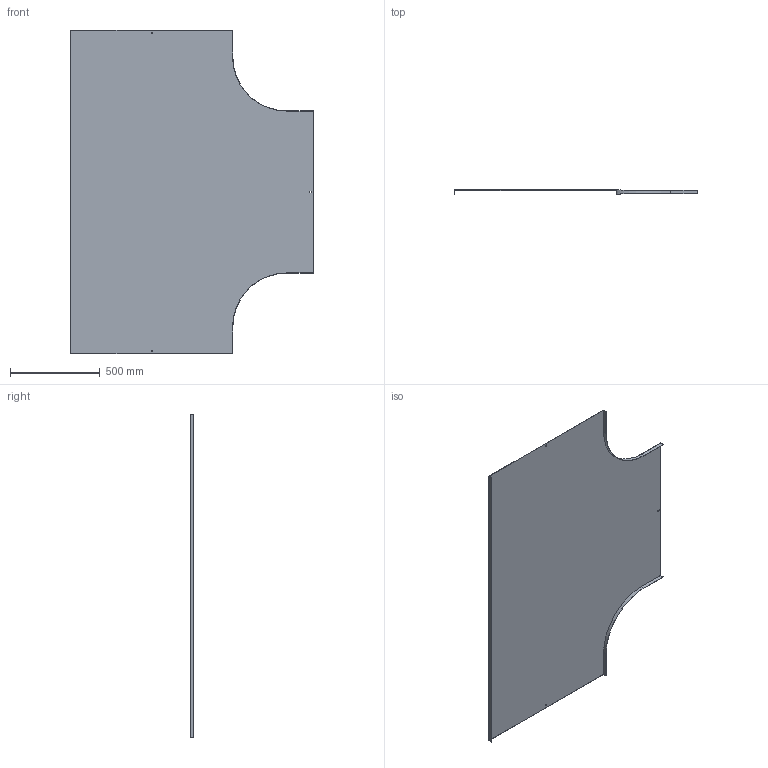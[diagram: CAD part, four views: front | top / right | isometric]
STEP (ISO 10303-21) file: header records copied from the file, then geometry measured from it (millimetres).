
FILE_DESCRIPTION (( 'STEP AP214' ), '1' );
FILE_NAME ('A2_15N3R900.step', '2025-02-21T12:06:52', ( '' ), ( '' ), 'SwSTEP 2.0', 'SolidWorks 2023', '' );
FILE_SCHEMA (( 'AUTOMOTIVE_DESIGN' ));
Length unit declared in the file: millimetre
Products named in the file (1): A2_15N3R900
Bounding box: 1351.5 x 20 x 1800 mm (x, y, z)
Volume: 3195382.9 mm3; surface area: 4269886.7 mm2
Topology: 1 solids, 1 shells, 34 faces, 96 edges, 64 vertices
Faces by surface type: plane 30, cylinder 4
Entity records: 1123 total; most frequent: CARTESIAN_POINT 195, ORIENTED_EDGE 192, DIRECTION 174, EDGE_CURVE 96, VECTOR 88, LINE 88, VERTEX_POINT 64, AXIS2_PLACEMENT_3D 43
